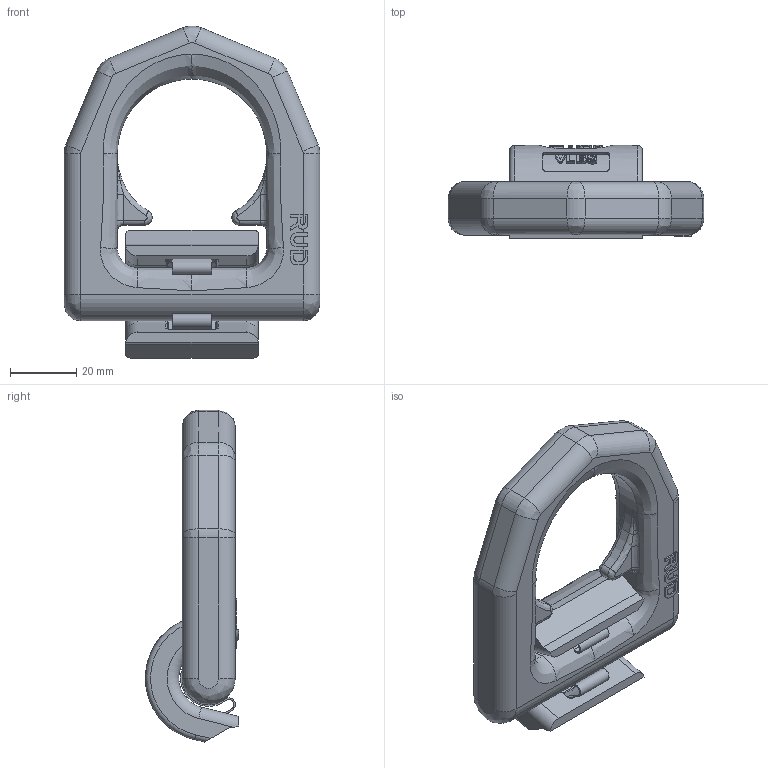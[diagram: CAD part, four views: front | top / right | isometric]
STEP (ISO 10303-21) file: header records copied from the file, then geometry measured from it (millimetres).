
FILE_DESCRIPTION((''),'2;1');
FILE_NAME('001-M34884-P3_ASM','2017-10-05T',('anja.joas'),(''),'PRO/ENGINEER BY PARAMETRIC TECHNOLOGY CORPORATION, 2011490','PRO/ENGINEER BY PARAMETRIC TECHNOLOGY CORPORATION, 2011490','');
FILE_SCHEMA(('CONFIG_CONTROL_DESIGN'));
Length unit declared in the file: millimetre
Products named in the file (4): 001-M34884-P2; 001-M34884-P1; 001-M35147-RT331; 001-M34884-P3_ASM
Assembly tree (3 placements, depth 2):
  001-M34884-P3_ASM
    001-M34884-P2
    001-M34884-P1
    001-M35147-RT331
Bounding box: 77 x 28 x 99.94 mm (x, y, z)
Volume: 71976.9 mm3; surface area: 21784.4 mm2
Topology: 3 solids, 3 shells, 452 faces, 1182 edges, 752 vertices
Faces by surface type: plane 172, cylinder 105, extrusion 87, bspline 62, torus 26
Entity records: 26892 total; most frequent: CARTESIAN_POINT 16383, ORIENTED_EDGE 2364, DIRECTION 1833, EDGE_CURVE 1182, VERTEX_POINT 752, VECTOR 629, AXIS2_PLACEMENT_3D 602, LINE 542
